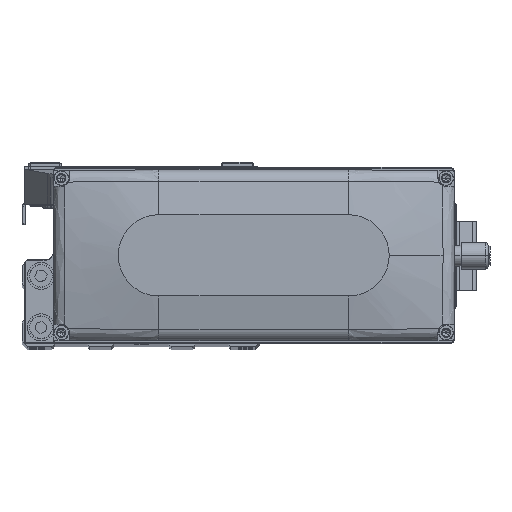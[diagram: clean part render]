
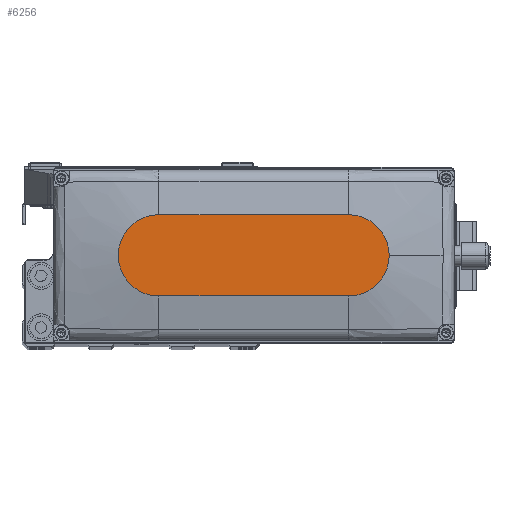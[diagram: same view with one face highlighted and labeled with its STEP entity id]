
A CAD part, top view. The second image highlights one B-rep face of the part: STEP entity #6256.
In plain terms, the highlighted planar face has unit normal (0, 0, 1).
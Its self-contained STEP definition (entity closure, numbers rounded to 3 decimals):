
#180 = AXIS2_PLACEMENT_3D ( 'NONE', #12952, #27943, #42969 ) ;
#971 = EDGE_CURVE ( 'NONE', #38461, #10968, #13839, .T. ) ;
#2203 = ORIENTED_EDGE ( 'NONE', *, *, #5972, .T. ) ;
#3979 = ORIENTED_EDGE ( 'NONE', *, *, #971, .T. ) ;
#5972 = EDGE_CURVE ( 'NONE', #10968, #12158, #17496, .T. ) ;
#6256 = ADVANCED_FACE ( 'NONE', ( #31648 ), #46676, .T. ) ;
#7105 = AXIS2_PLACEMENT_3D ( 'NONE', #32517, #47542, #13827 ) ;
#7993 = VECTOR ( 'NONE', #47512, 1000. ) ;
#8167 = DIRECTION ( 'NONE',  ( 1., 0., 0. ) ) ;
#9236 = DIRECTION ( 'NONE',  ( 0., 0., 1. ) ) ;
#9717 = EDGE_LOOP ( 'NONE', ( #38973, #3979, #2203, #33608, #13449 ) ) ;
#10017 = LINE ( 'NONE', #25024, #36165 ) ;
#10657 = CARTESIAN_POINT ( 'NONE',  ( -35., 15., 35. ) ) ;
#10968 = VERTEX_POINT ( 'NONE', #24446 ) ;
#11674 = CIRCLE ( 'NONE', #39228, 15. ) ;
#12158 = VERTEX_POINT ( 'NONE', #15861 ) ;
#12938 = EDGE_CURVE ( 'NONE', #44453, #38461, #10017, .T. ) ;
#12952 = CARTESIAN_POINT ( 'NONE',  ( 0., 0., 35. ) ) ;
#13449 = ORIENTED_EDGE ( 'NONE', *, *, #44054, .T. ) ;
#13827 = DIRECTION ( 'NONE',  ( 1., 0., 0. ) ) ;
#13839 = CIRCLE ( 'NONE', #41334, 15. ) ;
#14494 = VERTEX_POINT ( 'NONE', #16157 ) ;
#14548 = EDGE_CURVE ( 'NONE', #12158, #14494, #11674, .T. ) ;
#15861 = CARTESIAN_POINT ( 'NONE',  ( 35., -15., 35. ) ) ;
#16157 = CARTESIAN_POINT ( 'NONE',  ( 50., 0., 35. ) ) ;
#17496 = LINE ( 'NONE', #32484, #7993 ) ;
#21152 = CARTESIAN_POINT ( 'NONE',  ( 35., 15., 35. ) ) ;
#24251 = DIRECTION ( 'NONE',  ( 1., 0., 0. ) ) ;
#24446 = CARTESIAN_POINT ( 'NONE',  ( -35., -15., 35. ) ) ;
#25024 = CARTESIAN_POINT ( 'NONE',  ( -35., 15., 35. ) ) ;
#26860 = CARTESIAN_POINT ( 'NONE',  ( -35., 0., 35. ) ) ;
#27943 = DIRECTION ( 'NONE',  ( 0., 0., 1. ) ) ;
#28318 = CIRCLE ( 'NONE', #7105, 15. ) ;
#31648 = FACE_OUTER_BOUND ( 'NONE', #9717, .T. ) ;
#32484 = CARTESIAN_POINT ( 'NONE',  ( -35., -15., 35. ) ) ;
#32517 = CARTESIAN_POINT ( 'NONE',  ( 35., 0., 35. ) ) ;
#33608 = ORIENTED_EDGE ( 'NONE', *, *, #14548, .T. ) ;
#36165 = VECTOR ( 'NONE', #40051, 1000. ) ;
#38461 = VERTEX_POINT ( 'NONE', #10657 ) ;
#38973 = ORIENTED_EDGE ( 'NONE', *, *, #12938, .T. ) ;
#39228 = AXIS2_PLACEMENT_3D ( 'NONE', #42961, #9236, #24251 ) ;
#40051 = DIRECTION ( 'NONE',  ( -1., 0., 0. ) ) ;
#41334 = AXIS2_PLACEMENT_3D ( 'NONE', #26860, #41899, #8167 ) ;
#41899 = DIRECTION ( 'NONE',  ( 0., 0., 1. ) ) ;
#42961 = CARTESIAN_POINT ( 'NONE',  ( 35., 0., 35. ) ) ;
#42969 = DIRECTION ( 'NONE',  ( 1., 0., 0. ) ) ;
#44054 = EDGE_CURVE ( 'NONE', #14494, #44453, #28318, .T. ) ;
#44453 = VERTEX_POINT ( 'NONE', #21152 ) ;
#46676 = PLANE ( 'NONE',  #180 ) ;
#47512 = DIRECTION ( 'NONE',  ( 1., 0., 0. ) ) ;
#47542 = DIRECTION ( 'NONE',  ( 0., 0., 1. ) ) ;
